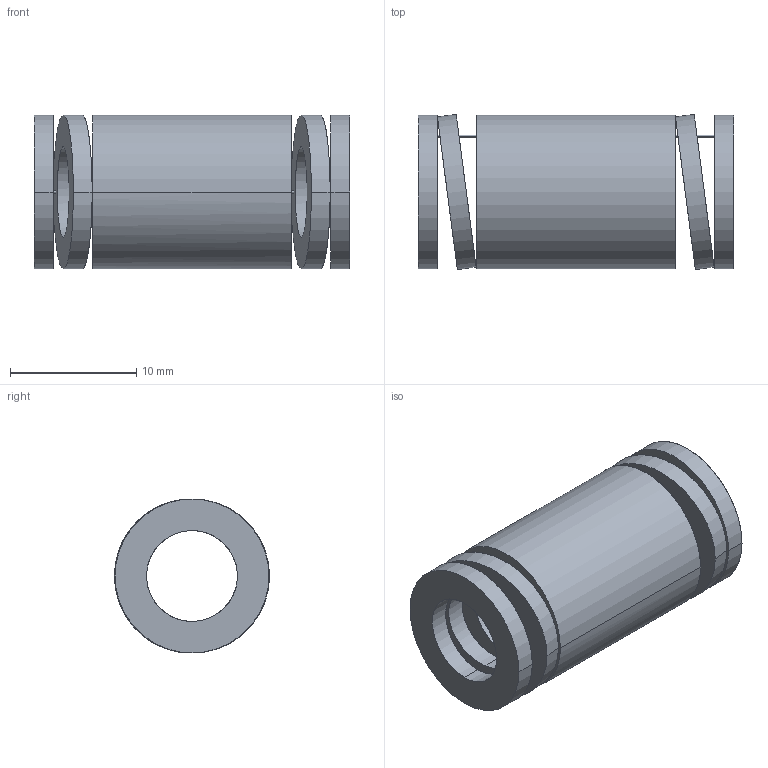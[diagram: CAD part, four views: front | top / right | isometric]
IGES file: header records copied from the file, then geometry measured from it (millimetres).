
Start section: START RECORD GO HERE.
Global section: file name: 392-B13-025.igs; native system: DASSAULT SYSTEMES CATIA V5 R20 - www.3ds.com; preprocessor: CATIA Version 5 Release 20 ; author: Utente; organization: NB04-ASUS; date: 20210812.145148; units: millimetre
Bounding box: 25 x 12.29 x 12.2 mm (x, y, z)
Surface area: 2086.2 mm2 (no closed solid volume)
Topology: 0 solids, 0 shells, 38 faces, 184 edges, 184 vertices
Faces by surface type: revolution 28, plane 10
